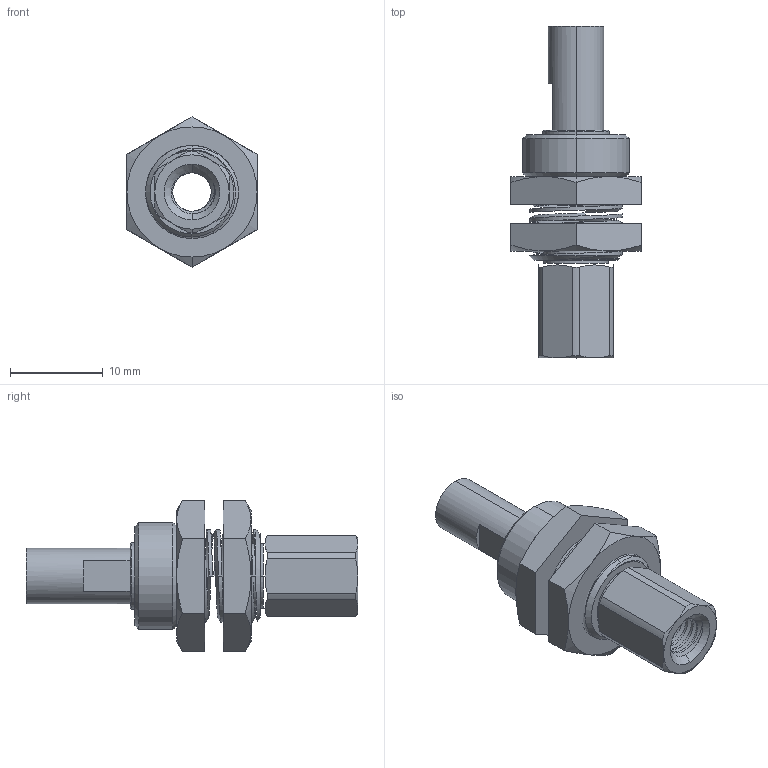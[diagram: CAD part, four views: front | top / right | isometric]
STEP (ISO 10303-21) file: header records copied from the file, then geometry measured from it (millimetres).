
FILE_DESCRIPTION (( 'STEP AP203' ), '1' );
FILE_NAME ('bln04-4bt5nk35-m5_asm〞〞TOC.STEP', '2024-10-17T03:01:02', ( '' ), ( '' ), 'SwSTEP 2.0', 'SolidWorks 2022', '' );
FILE_SCHEMA (( 'CONFIG_CONTROL_DESIGN' ));
Length unit declared in the file: millimetre
Products named in the file (1): bln04-4bt5nk35-m5_asm——TOC
Bounding box: 14 x 35.7 x 16.17 mm (x, y, z)
Surface area: 1924.1 mm2 (no closed solid volume)
Topology: 0 solids, 9 shells, 119 faces, 359 edges, 249 vertices
Faces by surface type: cone 43, cylinder 39, plane 29, bspline 8
Entity records: 7522 total; most frequent: CARTESIAN_POINT 4569, ORIENTED_EDGE 580, DIRECTION 515, EDGE_CURVE 359, VERTEX_POINT 249, AXIS2_PLACEMENT_3D 207, B_SPLINE_CURVE_WITH_KNOTS 163, EDGE_LOOP 128
